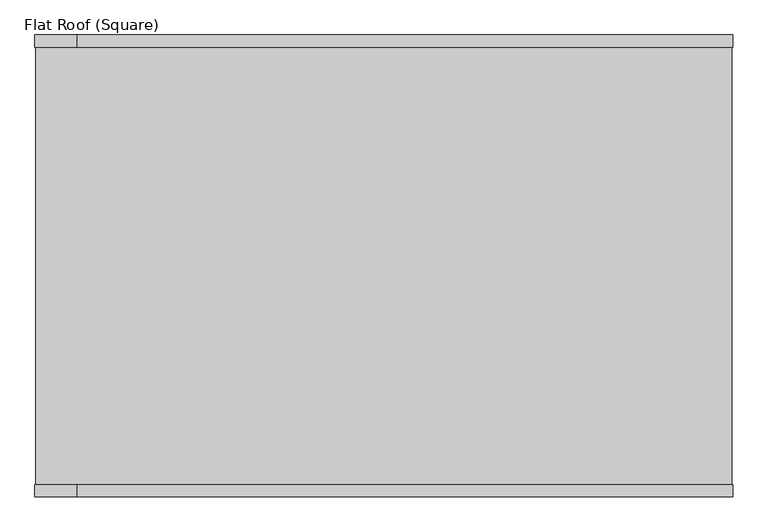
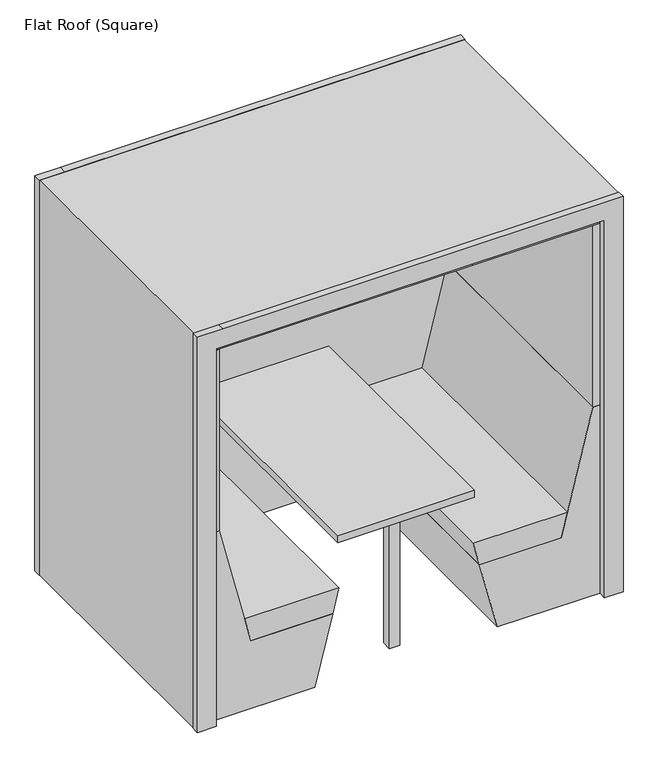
"""IFC4 building model written with IfcOpenShell, lengths in millimetres: furniture geometry, Furniture_WorkPod_Spacestor_RailwayCarriage : Flat Roof (Square)."""

from ifc_helpers import new_model, si_unit, point, frame, frame_2d, origin, origin_with_axes, place, context, project, spatial, polyline, circle_curve, trimmed, segment, composite_curve, outline, extrude, source, transform, mapped, element, save


def flat_roof_square_6827444e(model_context):
    return source(origin(), model_context, "Body", "SweptSolid", [
        extrude(outline(composite_curve([segment(trimmed(circle_curve(frame_2d((988.5, -1002.0)), 15.0), [point((973.5, -1002.0))], [point((1003.5, -1002.0))], False, "CARTESIAN"), True, "CONTINUOUS"), segment(trimmed(circle_curve(frame_2d((988.5, -1002.0)), 15.0), [point((1003.5, -1002.0))], [point((973.5, -1002.0))], False, "CARTESIAN"), True, "CONTINUOUS")], self_intersect=False)), origin_with_axes(), (0.0, 0.0, 1.0), 15.0),
        extrude(outline(composite_curve([segment(trimmed(circle_curve(frame_2d((-988.5, -1002.0)), 15.0), [point((-1003.5, -1002.0))], [point((-973.5, -1002.0))], False, "CARTESIAN"), True, "CONTINUOUS"), segment(trimmed(circle_curve(frame_2d((-988.5, -1002.0)), 15.0), [point((-973.5, -1002.0))], [point((-1003.5, -1002.0))], False, "CARTESIAN"), True, "CONTINUOUS")], self_intersect=False)), origin_with_axes(), (0.0, 0.0, 1.0), 15.0),
        extrude(outline(composite_curve([segment(trimmed(circle_curve(frame_2d((988.5, -167.0)), 15.0), [point((973.5, -167.0))], [point((1003.5, -167.0))], False, "CARTESIAN"), True, "CONTINUOUS"), segment(trimmed(circle_curve(frame_2d((988.5, -167.0)), 15.0), [point((1003.5, -167.0))], [point((973.5, -167.0))], False, "CARTESIAN"), True, "CONTINUOUS")], self_intersect=False)), origin_with_axes(), (0.0, 0.0, 1.0), 15.0),
        extrude(outline(composite_curve([segment(trimmed(circle_curve(frame_2d((-988.5, -167.0)), 15.0), [point((-1003.5, -167.0))], [point((-973.5, -167.0))], False, "CARTESIAN"), True, "CONTINUOUS"), segment(trimmed(circle_curve(frame_2d((-988.5, -167.0)), 15.0), [point((-973.5, -167.0))], [point((-1003.5, -167.0))], False, "CARTESIAN"), True, "CONTINUOUS")], self_intersect=False)), origin_with_axes(), (0.0, 0.0, 1.0), 15.0),
        extrude(outline(polyline([(3.0, 940.0), (3.0, 1030.0), (2025.0, 1030.0), (2025.0, -905.5), (2025.0, -1030.0), (3.0, -1030.0), (3.0, -940.0), (1935.0, -940.0), (1935.0, 940.0), (3.0, 940.0)])), frame((0.0, 61.0, 0.0), z_axis=(0.0, 1.0, 0.0), x_axis=(0.0, 0.0, 1.0)), (0.0, 0.0, 1.0), 36.0),
        extrude(outline(polyline([(3.0, 940.0), (3.0, 1030.0), (2025.0, 1030.0), (2025.0, -905.5), (2025.0, -1030.0), (3.0, -1030.0), (3.0, -940.0), (1935.0, -940.0), (1935.0, 940.0), (3.0, 940.0)])), frame((0.0, -1266.0, 0.0), z_axis=(0.0, 1.0, 0.0), x_axis=(0.0, 0.0, 1.0)), (0.0, 0.0, 1.0), 36.0),
        extrude(outline(polyline([(-323.7, -1230.0), (-966.5, -1230.0), (-966.5, 0.0), (-323.7, 0.0), (-323.7, -1230.0)])), frame((0.0, 0.0, 1899.5), z_axis=(0.0, 0.0, 1.0), x_axis=(1.0, 0.0, 0.0)), (0.0, 0.0, 1.0), 62.0),
        extrude(outline(polyline([(966.5, -1230.0), (323.7, -1230.0), (323.7, 0.0), (966.5, 0.0), (966.5, -1230.0)])), frame((0.0, 0.0, 1899.5), z_axis=(0.0, 0.0, 1.0), x_axis=(1.0, 0.0, 0.0)), (0.0, 0.0, 1.0), 62.0),
        extrude(outline(polyline([(-904.5, -1230.0), (-966.5, -1230.0), (-966.5, 0.0), (-904.5, 0.0), (-904.5, -1230.0)])), frame((0.0, 0.0, 969.0), z_axis=(0.0, 0.0, 1.0), x_axis=(1.0, 0.0, 0.0)), (0.0, 0.0, 1.0), 930.5),
        extrude(outline(polyline([(966.5, -1230.0), (904.5, -1230.0), (904.5, 0.0), (966.5, 0.0), (966.5, -1230.0)])), frame((0.0, 0.0, 969.0), z_axis=(0.0, 0.0, 1.0), x_axis=(1.0, 0.0, 0.0)), (0.0, 0.0, 1.0), 930.5),
        extrude(outline(polyline([(323.7, -1230.0), (-323.7, -1230.0), (-323.7, 0.0), (323.7, 0.0), (323.7, -1230.0)])), frame((0.0, 0.0, 1899.5), z_axis=(0.0, 0.0, 1.0), x_axis=(1.0, 0.0, 0.0)), (0.0, 0.0, 1.0), 62.0),
        extrude(outline(polyline([(354.0, -750.5348655), (354.0, -355.6348655), (475.0, -325.4661771), (475.0, -780.6245423), (354.0, -750.5348655)])), frame((0.0, -1230.0, 0.0), z_axis=(0.0, 1.0, 0.0), x_axis=(0.0, 0.0, 1.0)), (0.0, 0.0, 1.0), 1230.0),
        extrude(outline(polyline([(354.0, 750.5348655), (475.0, 780.6245423), (475.0, 325.4661771), (354.0, 355.6348655), (354.0, 750.5348655)])), frame((0.0, -1230.0, 0.0), z_axis=(0.0, 1.0, 0.0), x_axis=(0.0, 0.0, 1.0)), (0.0, 0.0, 1.0), 1230.0),
        extrude(outline(polyline([(969.0, -903.47), (969.0, -967.0), (6.0, -967.0), (6.0, -442.4010105), (354.0, -355.6348655), (354.0, -750.5348655), (969.0, -903.47)])), frame((0.0, -1230.0, 0.0), z_axis=(0.0, 1.0, 0.0), x_axis=(0.0, 0.0, 1.0)), (0.0, 0.0, 1.0), 1230.0),
        extrude(outline(polyline([(969.0, 903.47), (354.0, 750.5348655), (354.0, 355.6348655), (6.0, 442.4010105), (6.0, 967.0), (969.0, 967.0), (969.0, 903.47)])), frame((0.0, -1230.0, 0.0), z_axis=(0.0, 1.0, 0.0), x_axis=(0.0, 0.0, 1.0)), (0.0, 0.0, 1.0), 1230.0),
        extrude(outline(polyline([(25.0, -1085.0), (25.0, -1135.0), (-25.0, -1135.0), (-25.0, -1085.0), (25.0, -1085.0)])), frame((0.0, 0.0, 1.5), z_axis=(0.0, 0.0, 1.0), x_axis=(1.0, 0.0, 0.0)), (0.0, 0.0, 1.0), 705.0),
        extrude(outline(polyline([(330.0, 0.0), (330.0, -1230.0), (-330.0, -1230.0), (-330.0, 0.0), (330.0, 0.0)])), frame((0.0, 0.0, 708.0), z_axis=(0.0, 0.0, 1.0), x_axis=(1.0, 0.0, 0.0)), (0.0, 0.0, 1.0), 36.0),
        extrude(outline(polyline([(940.0, 61.0), (-940.0, 61.0), (-940.0, 79.0), (940.0, 79.0), (940.0, 61.0)])), frame((0.0, 0.0, 3.0), z_axis=(0.0, 0.0, 1.0), x_axis=(1.0, 0.0, 0.0)), (0.0, 0.0, 1.0), 1932.0),
        extrude(outline(polyline([(-967.5, 6.0), (967.5, 6.0), (967.5, -12.0), (-967.5, -12.0), (-967.5, 6.0)])), frame((0.0, 0.0, 3.0), z_axis=(0.0, 0.0, 1.0), x_axis=(1.0, 0.0, 0.0)), (0.0, 0.0, 1.0), 966.0),
        extrude(outline(polyline([(-967.5, 6.0), (967.5, 6.0), (967.5, -12.0), (-967.5, -12.0), (-967.5, 6.0)])), frame((0.0, 0.0, 969.0), z_axis=(0.0, 0.0, 1.0), x_axis=(1.0, 0.0, 0.0)), (0.0, 0.0, 1.0), 999.6238267),
        extrude(outline(polyline([(2005.0, 1010.0), (3.0, 1010.0), (3.0, 1028.0), (2023.0, 1028.0), (2023.0, -1028.0), (3.0, -1028.0), (3.0, -1010.0), (2005.0, -1010.0), (2005.0, 1010.0)])), frame((0.0, -1230.0, 0.0), z_axis=(0.0, 1.0, 0.0), x_axis=(0.0, 0.0, 1.0)), (0.0, 0.0, 1.0), 1291.0),
    ])


if __name__ == "__main__":
    model = new_model("IFC4")
    model_context = context("Model", 3, world=origin())
    ifc_project = project(units=[si_unit("LENGTHUNIT", "METRE", prefix="MILLI")], contexts=[model_context])
    site = spatial("IfcSite", under=ifc_project)
    building = spatial("IfcBuilding", under=site)
    placement = place(None, origin())
    flat_roof_square_shape = flat_roof_square_6827444e(model_context)
    element("IfcFurniture", 1, ObjectType="Furniture_WorkPod_Spacestor_RailwayCarriage : Flat Roof (Square)", at=placement, inside=building, context=model_context, shape_type="MappedRepresentation", body=[
        mapped(flat_roof_square_shape, transform((0.0, 0.0, 0.0), x_axis=(1.0, 0.0, 0.0), y_axis=(0.0, 1.0, 0.0), z_axis=(0.0, 0.0, 1.0))),
    ])
    save(model, "model.ifc")
